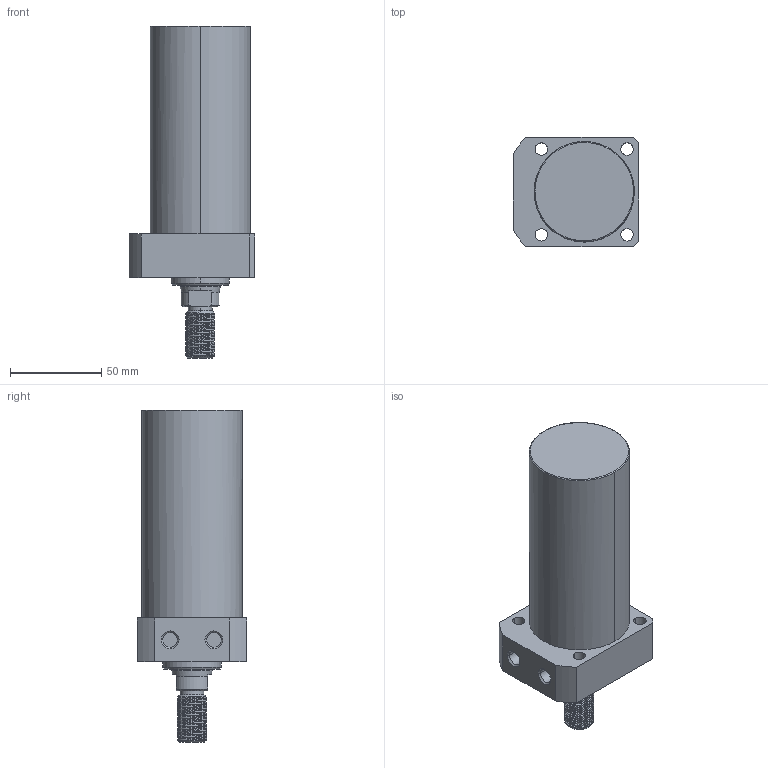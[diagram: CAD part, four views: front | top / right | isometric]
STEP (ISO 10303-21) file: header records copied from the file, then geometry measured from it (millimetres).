
FILE_DESCRIPTION((' '),'2;1');
FILE_NAME( 'TLLR-055CT-085.STEP.stp', '2025-10-24T16:34:47', (' '), ('--- Datakit www.datakit.com---'), ' Datakit CrossCadWare V2024.1 Dec 21 2023', 'Mastercam 2025', ' ');
FILE_SCHEMA(('AUTOMOTIVE_DESIGN { 1 0 10303 214 1 1 1 1 }'));
Length unit declared in the file: millimetre
Products named in the file (1): TLLR-055CT-085
Bounding box: 69 x 60 x 182 mm (x, y, z)
Volume: 375716.1 mm3; surface area: 39344.8 mm2
Topology: 1 solids, 1 shells, 100 faces, 353 edges, 263 vertices
Faces by surface type: cylinder 61, plane 20, cone 15, bspline 2, torus 2
Entity records: 9558 total; most frequent: CARTESIAN_POINT 6503, ORIENTED_EDGE 706, DIRECTION 513, EDGE_CURVE 353, VERTEX_POINT 263, AXIS2_PLACEMENT_3D 208, B_SPLINE_CURVE_WITH_KNOTS 146, EDGE_LOOP 116
